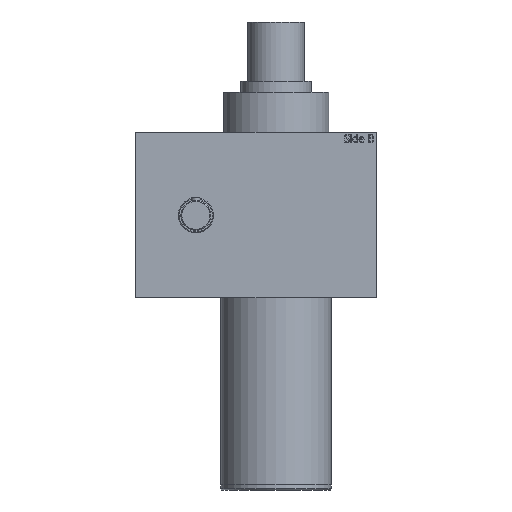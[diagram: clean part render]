
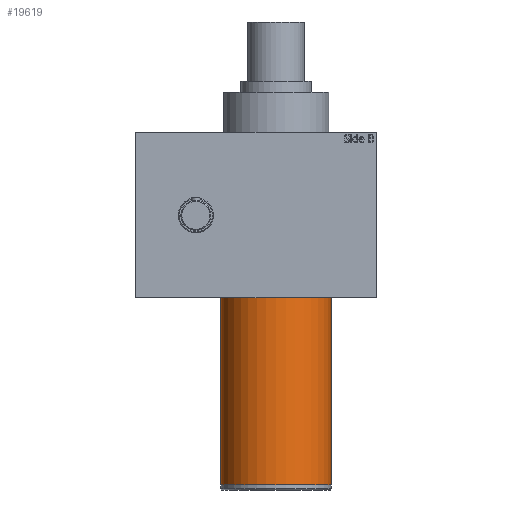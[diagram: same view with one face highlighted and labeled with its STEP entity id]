
A CAD part, left-side view. The second image highlights one B-rep face of the part: STEP entity #19619.
In plain terms, the highlighted cylindrical face has radius 55 mm (diameter 110 mm), a partial arc.
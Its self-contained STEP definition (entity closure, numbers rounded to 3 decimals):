
#770 = LINE ( 'NONE', #14206, #8433 ) ;
#981 = DIRECTION ( 'NONE',  ( 0., -1., 0. ) ) ;
#1683 = DIRECTION ( 'NONE',  ( 0., 1., 0. ) ) ;
#2115 = DIRECTION ( 'NONE',  ( 0., 0., -1. ) ) ;
#2510 = LINE ( 'NONE', #19230, #3162 ) ;
#3056 = CARTESIAN_POINT ( 'NONE',  ( 0., 269.5, -55. ) ) ;
#3162 = VECTOR ( 'NONE', #8969, 1000. ) ;
#3401 = AXIS2_PLACEMENT_3D ( 'NONE', #7040, #1683, #2115 ) ;
#3613 = VERTEX_POINT ( 'NONE', #17546 ) ;
#3713 = ORIENTED_EDGE ( 'NONE', *, *, #19263, .T. ) ;
#4855 = DIRECTION ( 'NONE',  ( 0., -1., 0. ) ) ;
#5856 = CARTESIAN_POINT ( 'NONE',  ( 0., 269.5, 0. ) ) ;
#7040 = CARTESIAN_POINT ( 'NONE',  ( 0., 82.5, 0. ) ) ;
#7452 = CARTESIAN_POINT ( 'NONE',  ( 0., 82.5, 55. ) ) ;
#7786 = ORIENTED_EDGE ( 'NONE', *, *, #11683, .T. ) ;
#8433 = VECTOR ( 'NONE', #981, 1000. ) ;
#8457 = CARTESIAN_POINT ( 'NONE',  ( 0., 269.5, 55. ) ) ;
#8469 = EDGE_LOOP ( 'NONE', ( #21320, #3713, #7786, #18848 ) ) ;
#8969 = DIRECTION ( 'NONE',  ( 0., -1., 0. ) ) ;
#9274 = DIRECTION ( 'NONE',  ( 0., 0., -1. ) ) ;
#11635 = CARTESIAN_POINT ( 'NONE',  ( 0., 176., 0. ) ) ;
#11683 = EDGE_CURVE ( 'NONE', #15953, #3613, #21535, .T. ) ;
#12116 = VERTEX_POINT ( 'NONE', #8457 ) ;
#13290 = AXIS2_PLACEMENT_3D ( 'NONE', #11635, #4855, #15019 ) ;
#13768 = EDGE_CURVE ( 'NONE', #16781, #12116, #18126, .T. ) ;
#14206 = CARTESIAN_POINT ( 'NONE',  ( 0., 176., -55. ) ) ;
#14693 = FACE_OUTER_BOUND ( 'NONE', #8469, .T. ) ;
#15019 = DIRECTION ( 'NONE',  ( 0., 0., -1. ) ) ;
#15914 = DIRECTION ( 'NONE',  ( 0., -1., 0. ) ) ;
#15953 = VERTEX_POINT ( 'NONE', #7452 ) ;
#16781 = VERTEX_POINT ( 'NONE', #3056 ) ;
#17546 = CARTESIAN_POINT ( 'NONE',  ( 0., 82.5, -55. ) ) ;
#17745 = EDGE_CURVE ( 'NONE', #16781, #3613, #770, .T. ) ;
#17862 = CYLINDRICAL_SURFACE ( 'NONE', #13290, 55. ) ;
#18126 = CIRCLE ( 'NONE', #21622, 55. ) ;
#18848 = ORIENTED_EDGE ( 'NONE', *, *, #17745, .F. ) ;
#19230 = CARTESIAN_POINT ( 'NONE',  ( 0., 176., 55. ) ) ;
#19263 = EDGE_CURVE ( 'NONE', #12116, #15953, #2510, .T. ) ;
#19619 = ADVANCED_FACE ( 'NONE', ( #14693 ), #17862, .T. ) ;
#21320 = ORIENTED_EDGE ( 'NONE', *, *, #13768, .T. ) ;
#21535 = CIRCLE ( 'NONE', #3401, 55. ) ;
#21622 = AXIS2_PLACEMENT_3D ( 'NONE', #5856, #15914, #9274 ) ;
